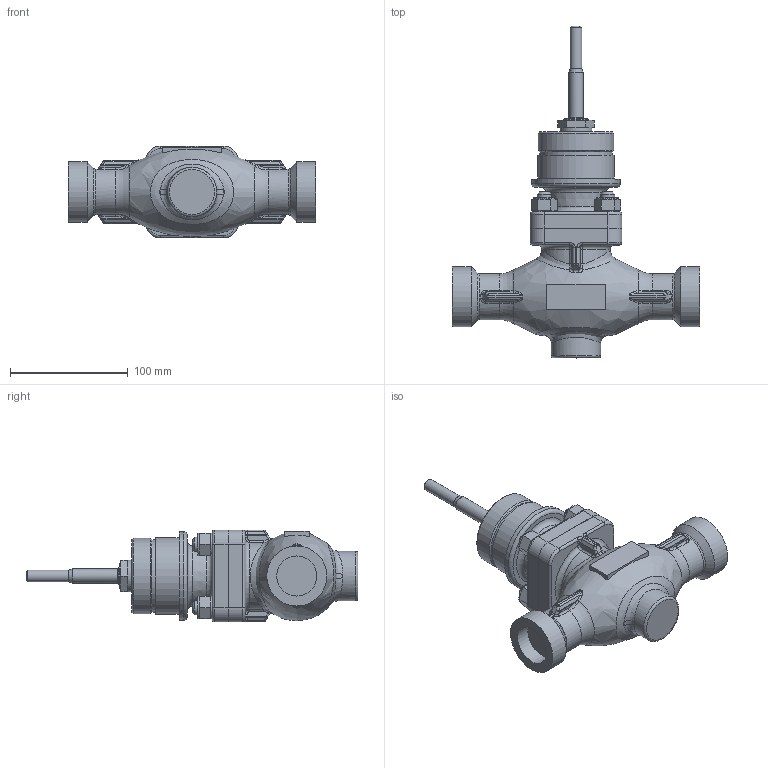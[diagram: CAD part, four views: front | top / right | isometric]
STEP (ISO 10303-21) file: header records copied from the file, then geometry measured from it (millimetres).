
FILE_DESCRIPTION(/* description */ (''),/* implementation_level */ '2;1');
FILE_NAME(/* name */ 'CV3xx_NPS_1_privarovaci_SW_CL600.stp',/* time_stamp */ '2017-05-05T07:56:15+02:00',/* author */ (''),/* organization */ (''),/* preprocessor_version */ 'ST-DEVELOPER v15',/* originating_system */ 'SIEMENS PLM Software NX 8.5',/* authorisation */ '');
FILE_SCHEMA (('AP203_CONFIGURATION_CONTROLLED_3D_DESIGN_OF_MECHANICAL_PARTS_AND_ASSEMBLIES_MIM_LF { 1 0 10303 403 2 1 2}'));
Length unit declared in the file: millimetre
Products named in the file (1): adam123C24F3gp45
Bounding box: 210 x 282 x 78 mm (x, y, z)
Volume: 962328.7 mm3; surface area: 100793.6 mm2
Topology: 1 solids, 1 shells, 459 faces, 1039 edges, 598 vertices
Faces by surface type: cylinder 132, plane 116, bspline 84, cone 76, torus 27, sphere 24
Full cylindrical faces by diameter (mm): 10 x1, 12 x9, 14 x5, 18 x1, 19 x8, 21 x1, 27 x1, 34.1 x2, 39 x2, 42 x1, 51 x2, 58 x1, 61.6 x1, 64 x1, 65 x1, 75 x1
Entity records: 14254 total; most frequent: CARTESIAN_POINT 5125, ORIENTED_EDGE 1838, DIRECTION 1810, EDGE_CURVE 919, AXIS2_PLACEMENT_3D 784, EDGE_LOOP 564, VERTEX_POINT 559, ADVANCED_FACE 459
